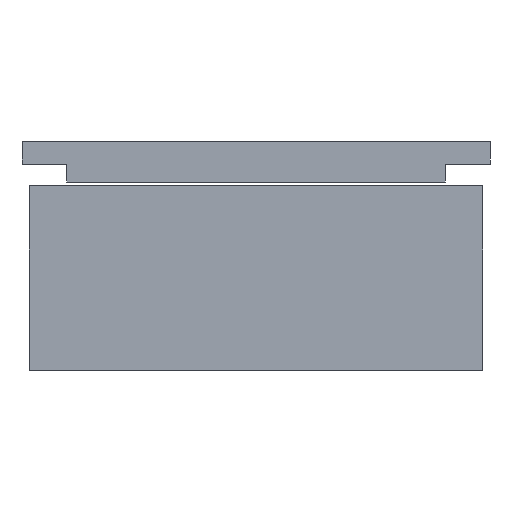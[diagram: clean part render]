
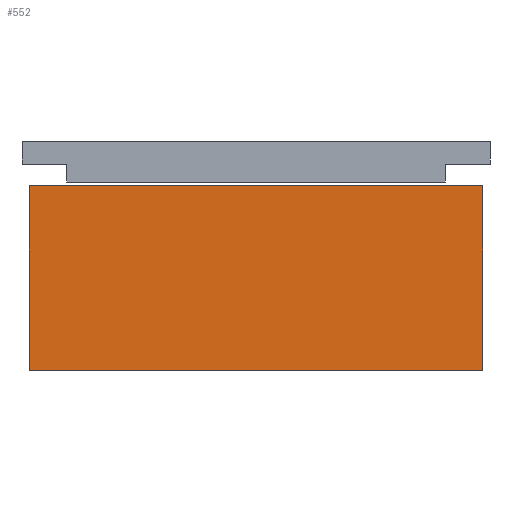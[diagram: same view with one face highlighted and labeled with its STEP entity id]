
A CAD part, left-side view. The second image highlights one B-rep face of the part: STEP entity #552.
In plain terms, the highlighted planar face has unit normal (-1, 0, 0).
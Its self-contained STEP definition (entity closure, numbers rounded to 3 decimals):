
#23 = CARTESIAN_POINT ( 'NONE',  ( -140., -60.5, 49.3 ) ) ;
#146 = LINE ( 'NONE', #2449, #3855 ) ;
#192 = DIRECTION ( 'NONE',  ( 0., -1., 0. ) ) ;
#552 = ADVANCED_FACE ( 'NONE', ( #3055 ), #6687, .F. ) ;
#947 = CARTESIAN_POINT ( 'NONE',  ( -140., 60.5, 0. ) ) ;
#948 = EDGE_LOOP ( 'NONE', ( #3655, #1157, #2316, #1510 ) ) ;
#1003 = EDGE_CURVE ( 'NONE', #6497, #6104, #146, .T. ) ;
#1157 = ORIENTED_EDGE ( 'NONE', *, *, #1420, .F. ) ;
#1177 = DIRECTION ( 'NONE',  ( 0., 0., -1. ) ) ;
#1325 = EDGE_CURVE ( 'NONE', #6497, #3306, #3076, .T. ) ;
#1420 = EDGE_CURVE ( 'NONE', #6104, #2371, #2134, .T. ) ;
#1463 = CARTESIAN_POINT ( 'NONE',  ( -140., -60.5, 49.3 ) ) ;
#1510 = ORIENTED_EDGE ( 'NONE', *, *, #1325, .T. ) ;
#1553 = EDGE_CURVE ( 'NONE', #3306, #2371, #3067, .T. ) ;
#1565 = CARTESIAN_POINT ( 'NONE',  ( -140., -60.5, 0. ) ) ;
#1602 = CARTESIAN_POINT ( 'NONE',  ( -140., 60.5, 49.3 ) ) ;
#2134 = LINE ( 'NONE', #23, #7161 ) ;
#2316 = ORIENTED_EDGE ( 'NONE', *, *, #1003, .F. ) ;
#2359 = DIRECTION ( 'NONE',  ( 0., 0., -1. ) ) ;
#2371 = VERTEX_POINT ( 'NONE', #1565 ) ;
#2449 = CARTESIAN_POINT ( 'NONE',  ( -140., -60.5, 49.3 ) ) ;
#2967 = CARTESIAN_POINT ( 'NONE',  ( -140., -60.5, 0. ) ) ;
#3055 = FACE_OUTER_BOUND ( 'NONE', #948, .T. ) ;
#3067 = LINE ( 'NONE', #2967, #4052 ) ;
#3076 = LINE ( 'NONE', #1602, #4839 ) ;
#3306 = VERTEX_POINT ( 'NONE', #947 ) ;
#3655 = ORIENTED_EDGE ( 'NONE', *, *, #1553, .T. ) ;
#3855 = VECTOR ( 'NONE', #6338, 1000. ) ;
#3940 = CARTESIAN_POINT ( 'NONE',  ( -140., 60.5, 49.3 ) ) ;
#4052 = VECTOR ( 'NONE', #192, 1000. ) ;
#4839 = VECTOR ( 'NONE', #5489, 1000. ) ;
#5489 = DIRECTION ( 'NONE',  ( 0., 0., -1. ) ) ;
#5686 = DIRECTION ( 'NONE',  ( 1., 0., 0. ) ) ;
#6087 = AXIS2_PLACEMENT_3D ( 'NONE', #6225, #5686, #2359 ) ;
#6104 = VERTEX_POINT ( 'NONE', #1463 ) ;
#6225 = CARTESIAN_POINT ( 'NONE',  ( -140., -60.5, 49.3 ) ) ;
#6338 = DIRECTION ( 'NONE',  ( 0., -1., 0. ) ) ;
#6497 = VERTEX_POINT ( 'NONE', #3940 ) ;
#6687 = PLANE ( 'NONE',  #6087 ) ;
#7161 = VECTOR ( 'NONE', #1177, 1000. ) ;
